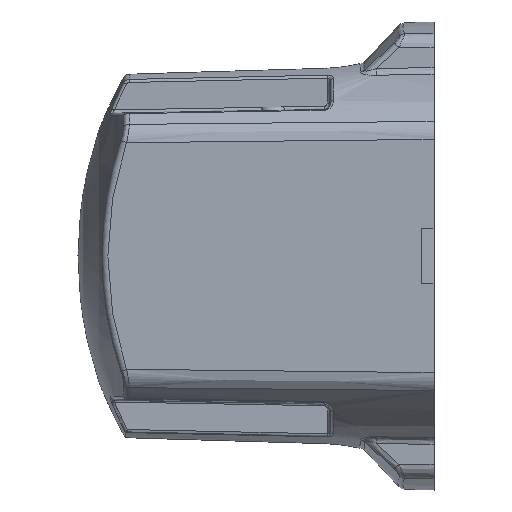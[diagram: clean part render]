
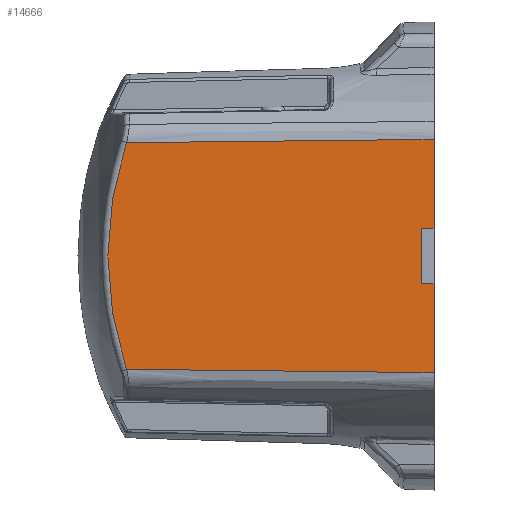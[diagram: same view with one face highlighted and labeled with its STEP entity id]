
A CAD part, front view. The second image highlights one B-rep face of the part: STEP entity #14666.
In plain terms, the highlighted planar face has unit normal (-0.026, -1, 0).
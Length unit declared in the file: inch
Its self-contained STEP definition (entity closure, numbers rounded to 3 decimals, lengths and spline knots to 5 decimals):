
#339 = CARTESIAN_POINT ( 'NONE',  ( -0.51181, -1.79134, -0.33877 ) ) ;
#623 = CARTESIAN_POINT ( 'NONE',  ( -4.25239, -1.69339, 1.37833 ) ) ;
#851 = CARTESIAN_POINT ( 'NONE',  ( -1.75867, -1.75869, -1.40518 ) ) ;
#1037 = AXIS2_PLACEMENT_3D ( 'NONE', #6412, #5054, #14740 ) ;
#1168 = DIRECTION ( 'NONE',  ( 0., 0., 1. ) ) ;
#1253 = CARTESIAN_POINT ( 'NONE',  ( -0.49087, -1.79189, -0.33913 ) ) ;
#1878 = EDGE_CURVE ( 'NONE', #3246, #5099, #11710, .T. ) ;
#2065 = ORIENTED_EDGE ( 'NONE', *, *, #8595, .F. ) ;
#2309 = VECTOR ( 'NONE', #10727, 39.37008 ) ;
#3246 = VERTEX_POINT ( 'NONE', #623 ) ;
#4405 = PLANE ( 'NONE',  #4621 ) ;
#4471 = VERTEX_POINT ( 'NONE', #6088 ) ;
#4621 = AXIS2_PLACEMENT_3D ( 'NONE', #17899, #12458, #9903 ) ;
#4675 = VERTEX_POINT ( 'NONE', #16179 ) ;
#5054 = DIRECTION ( 'NONE',  ( -0.026, -1., 0. ) ) ;
#5099 = VERTEX_POINT ( 'NONE', #12263 ) ;
#5138 = EDGE_CURVE ( 'NONE', #11073, #3246, #15069, .T. ) ;
#5476 = ORIENTED_EDGE ( 'NONE', *, *, #11598, .T. ) ;
#5646 = CARTESIAN_POINT ( 'NONE',  ( -0.51181, -1.79134, -1.53984 ) ) ;
#5761 = ORIENTED_EDGE ( 'NONE', *, *, #7672, .T. ) ;
#6050 = VECTOR ( 'NONE', #15333, 39.37008 ) ;
#6088 = CARTESIAN_POINT ( 'NONE',  ( -0.66929, -1.78721, 0.33602 ) ) ;
#6188 = DIRECTION ( 'NONE',  ( 0., 0., -1. ) ) ;
#6389 = VECTOR ( 'NONE', #1168, 39.37008 ) ;
#6412 = CARTESIAN_POINT ( 'NONE',  ( -0.16526, -1.80041, 0. ) ) ;
#6852 = FACE_OUTER_BOUND ( 'NONE', #13427, .T. ) ;
#7000 = LINE ( 'NONE', #5646, #6050 ) ;
#7073 = ORIENTED_EDGE ( 'NONE', *, *, #5138, .T. ) ;
#7156 = ORIENTED_EDGE ( 'NONE', *, *, #13098, .T. ) ;
#7559 = VERTEX_POINT ( 'NONE', #339 ) ;
#7672 = EDGE_CURVE ( 'NONE', #5099, #4675, #13592, .T. ) ;
#8001 = CARTESIAN_POINT ( 'NONE',  ( -0.51181, -1.79134, 1.41832 ) ) ;
#8094 = CARTESIAN_POINT ( 'NONE',  ( -1.75867, -1.75869, 1.40518 ) ) ;
#8532 = CARTESIAN_POINT ( 'NONE',  ( -0.51181, -1.79134, 0.33877 ) ) ;
#8595 = EDGE_CURVE ( 'NONE', #4471, #10156, #14601, .T. ) ;
#8953 = VECTOR ( 'NONE', #15037, 39.37008 ) ;
#9140 = CARTESIAN_POINT ( 'NONE',  ( -0.54457, -1.79048, 0.3382 ) ) ;
#9374 = LINE ( 'NONE', #14907, #6389 ) ;
#9423 = CARTESIAN_POINT ( 'NONE',  ( -3.00553, -1.72604, -1.39186 ) ) ;
#9903 = DIRECTION ( 'NONE',  ( -1., 0.026, 0. ) ) ;
#9936 = EDGE_CURVE ( 'NONE', #4471, #15070, #13304, .T. ) ;
#10156 = VERTEX_POINT ( 'NONE', #16278 ) ;
#10727 = DIRECTION ( 'NONE',  ( -1., 0.026, 0.017 ) ) ;
#11073 = VERTEX_POINT ( 'NONE', #14061 ) ;
#11598 = EDGE_CURVE ( 'NONE', #15070, #11073, #9374, .T. ) ;
#11710 = CIRCLE ( 'NONE', #1037, 4.31462 ) ;
#12146 = ORIENTED_EDGE ( 'NONE', *, *, #9936, .T. ) ;
#12263 = CARTESIAN_POINT ( 'NONE',  ( -4.25239, -1.69339, -1.37833 ) ) ;
#12458 = DIRECTION ( 'NONE',  ( -0.026, -1., 0. ) ) ;
#12528 = ORIENTED_EDGE ( 'NONE', *, *, #1878, .T. ) ;
#13098 = EDGE_CURVE ( 'NONE', #4675, #7559, #7000, .T. ) ;
#13304 = LINE ( 'NONE', #9140, #8953 ) ;
#13317 = CARTESIAN_POINT ( 'NONE',  ( -0.51181, -1.79134, -1.41832 ) ) ;
#13427 = EDGE_LOOP ( 'NONE', ( #2065, #12146, #5476, #7073, #12528, #5761, #7156, #14983 ) ) ;
#13592 = B_SPLINE_CURVE_WITH_KNOTS ( 'NONE', 3,
 ( #14777, #9423, #851, #13317 ),
 .UNSPECIFIED., .F., .F.,
 ( 4, 4 ),
 ( 0.00143, 0.09647 ),
 .UNSPECIFIED. ) ;
#13626 = LINE ( 'NONE', #1253, #2309 ) ;
#14061 = CARTESIAN_POINT ( 'NONE',  ( -0.51181, -1.79134, 1.41832 ) ) ;
#14563 = EDGE_CURVE ( 'NONE', #7559, #10156, #13626, .T. ) ;
#14601 = LINE ( 'NONE', #17066, #16333 ) ;
#14666 = ADVANCED_FACE ( 'NONE', ( #6852 ), #4405, .T. ) ;
#14740 = DIRECTION ( 'NONE',  ( 1., -0.026, 0. ) ) ;
#14777 = CARTESIAN_POINT ( 'NONE',  ( -4.25239, -1.69339, -1.37833 ) ) ;
#14795 = CARTESIAN_POINT ( 'NONE',  ( -3.00553, -1.72604, 1.39186 ) ) ;
#14907 = CARTESIAN_POINT ( 'NONE',  ( -0.51181, -1.79134, -1.53984 ) ) ;
#14976 = CARTESIAN_POINT ( 'NONE',  ( -4.25239, -1.69339, 1.37833 ) ) ;
#14983 = ORIENTED_EDGE ( 'NONE', *, *, #14563, .T. ) ;
#15037 = DIRECTION ( 'NONE',  ( 1., -0.026, 0.017 ) ) ;
#15069 = B_SPLINE_CURVE_WITH_KNOTS ( 'NONE', 3,
 ( #8001, #8094, #14795, #14976 ),
 .UNSPECIFIED., .F., .F.,
 ( 4, 4 ),
 ( 0., 0.09505 ),
 .UNSPECIFIED. ) ;
#15070 = VERTEX_POINT ( 'NONE', #8532 ) ;
#15333 = DIRECTION ( 'NONE',  ( 0., 0., 1. ) ) ;
#16179 = CARTESIAN_POINT ( 'NONE',  ( -0.51181, -1.79134, -1.41832 ) ) ;
#16278 = CARTESIAN_POINT ( 'NONE',  ( -0.66929, -1.78721, -0.33602 ) ) ;
#16333 = VECTOR ( 'NONE', #6188, 39.37008 ) ;
#17066 = CARTESIAN_POINT ( 'NONE',  ( -0.66929, -1.78721, -1.53984 ) ) ;
#17899 = CARTESIAN_POINT ( 'NONE',  ( -0.51181, -1.79134, -1.53984 ) ) ;
